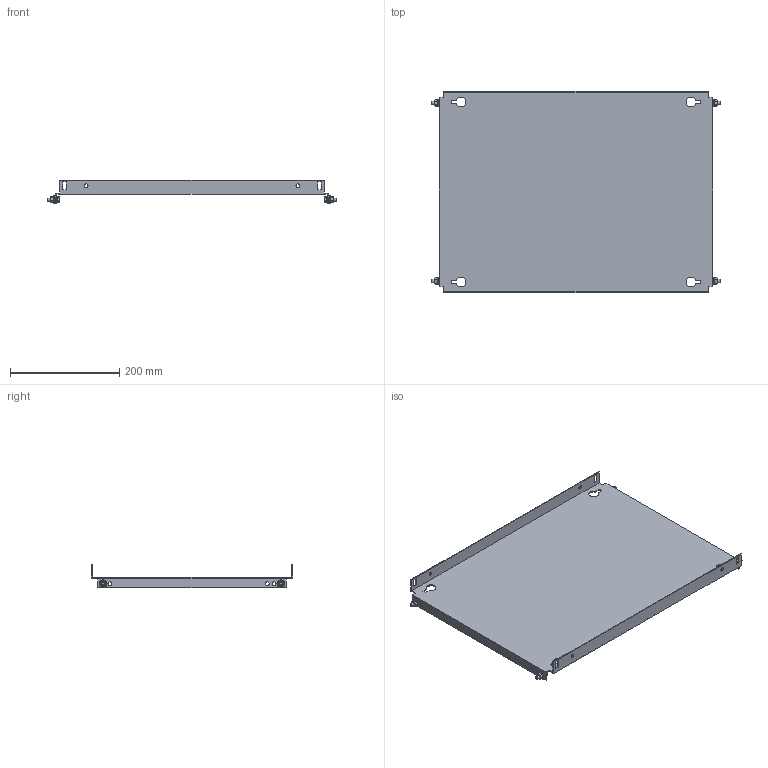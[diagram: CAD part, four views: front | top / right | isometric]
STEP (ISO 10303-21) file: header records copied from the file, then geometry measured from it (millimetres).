
FILE_DESCRIPTION(('Open CASCADE Model'),'2;1');
FILE_NAME('Open CASCADE Shape Model','2025-02-20T13:24:43',('Author'),( 'Open CASCADE'),'Open CASCADE STEP processor 7.8','Open CASCADE 7.8' ,'Unknown');
FILE_SCHEMA(('AUTOMOTIVE_DESIGN { 1 0 10303 214 1 1 1 1 }'));
Length unit declared in the file: millimetre
Products named in the file (4): Compound1; Solid1; Solid2; Solid3
Assembly tree (9 placements, depth 2):
  Compound1
    Solid1
    Solid2  x4
    Solid3  x4
Bounding box: 528 x 369 x 43 mm (x, y, z)
Volume: 440149.8 mm3; surface area: 444539.8 mm2
Topology: 9 solids, 9 shells, 308 faces, 753 edges, 467 vertices
Faces by surface type: plane 150, cone 68, bspline 48, cylinder 30, torus 12
Full cylindrical faces by diameter (mm): 5 x4, 6 x8, 7 x14
Entity records: 4930 total; most frequent: CARTESIAN_POINT 1377, ORIENTED_EDGE 756, DIRECTION 642, EDGE_CURVE 378, VERTEX_POINT 245, LINE 216, VECTOR 216, AXIS2_PLACEMENT_3D 213
